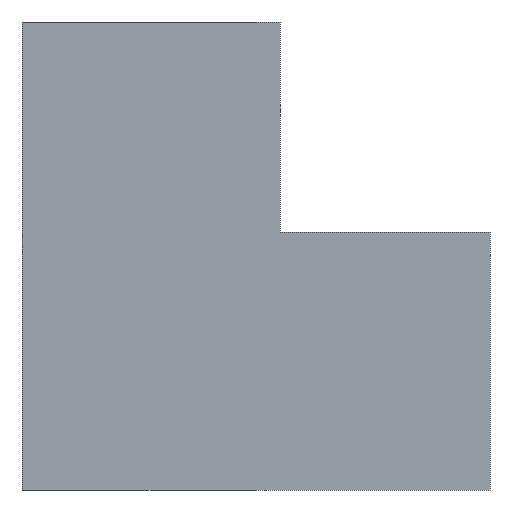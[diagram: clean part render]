
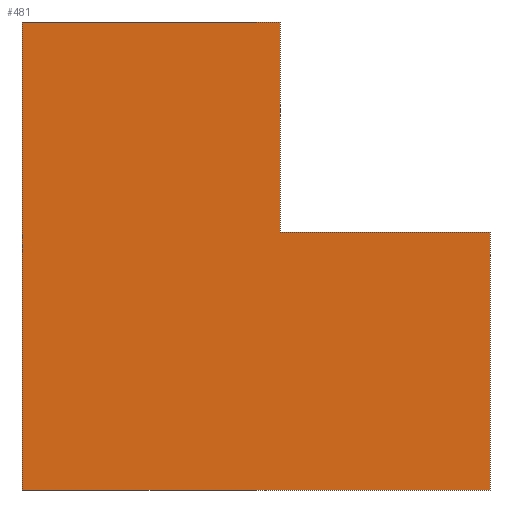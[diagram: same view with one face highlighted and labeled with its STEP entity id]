
A CAD part, front view. The second image highlights one B-rep face of the part: STEP entity #481.
In plain terms, the highlighted planar face has unit normal (0, -1, 0).
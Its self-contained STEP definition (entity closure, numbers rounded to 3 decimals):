
#24 = VERTEX_POINT('',#25);
#25 = CARTESIAN_POINT('',(0.,-43.,0.));
#32 = PLANE('',#33);
#33 = AXIS2_PLACEMENT_3D('',#34,#35,#36);
#34 = CARTESIAN_POINT('',(0.,0.,0.));
#35 = DIRECTION('',(-1.,0.,0.));
#36 = DIRECTION('',(0.,0.,1.));
#44 = PLANE('',#45);
#45 = AXIS2_PLACEMENT_3D('',#46,#47,#48);
#46 = CARTESIAN_POINT('',(0.,0.,0.));
#47 = DIRECTION('',(0.,0.,1.));
#48 = DIRECTION('',(1.,0.,0.));
#56 = EDGE_CURVE('',#24,#57,#59,.T.);
#57 = VERTEX_POINT('',#58);
#58 = CARTESIAN_POINT('',(0.,-43.,78.));
#59 = SURFACE_CURVE('',#60,(#64,#71),.PCURVE_S1.);
#60 = LINE('',#61,#62);
#61 = CARTESIAN_POINT('',(0.,-43.,0.));
#62 = VECTOR('',#63,1.);
#63 = DIRECTION('',(0.,0.,1.));
#64 = PCURVE('',#32,#65);
#65 = DEFINITIONAL_REPRESENTATION('',(#66),#70);
#66 = LINE('',#67,#68);
#67 = CARTESIAN_POINT('',(0.,-43.));
#68 = VECTOR('',#69,1.);
#69 = DIRECTION('',(1.,0.));
#70 = ( GEOMETRIC_REPRESENTATION_CONTEXT(2) 
PARAMETRIC_REPRESENTATION_CONTEXT() REPRESENTATION_CONTEXT('2D SPACE',''
  ) );
#71 = PCURVE('',#72,#77);
#72 = PLANE('',#73);
#73 = AXIS2_PLACEMENT_3D('',#74,#75,#76);
#74 = CARTESIAN_POINT('',(35.074,-43.,35.074));
#75 = DIRECTION('',(0.,1.,0.));
#76 = DIRECTION('',(0.,0.,1.));
#77 = DEFINITIONAL_REPRESENTATION('',(#78),#82);
#78 = LINE('',#79,#80);
#79 = CARTESIAN_POINT('',(-35.074,-35.074));
#80 = VECTOR('',#81,1.);
#81 = DIRECTION('',(1.,0.));
#82 = ( GEOMETRIC_REPRESENTATION_CONTEXT(2) 
PARAMETRIC_REPRESENTATION_CONTEXT() REPRESENTATION_CONTEXT('2D SPACE',''
  ) );
#100 = PLANE('',#101);
#101 = AXIS2_PLACEMENT_3D('',#102,#103,#104);
#102 = CARTESIAN_POINT('',(43.,0.,78.));
#103 = DIRECTION('',(0.,0.,-1.));
#104 = DIRECTION('',(-1.,0.,0.));
#142 = EDGE_CURVE('',#24,#143,#145,.T.);
#143 = VERTEX_POINT('',#144);
#144 = CARTESIAN_POINT('',(78.,-43.,0.));
#145 = SURFACE_CURVE('',#146,(#150,#157),.PCURVE_S1.);
#146 = LINE('',#147,#148);
#147 = CARTESIAN_POINT('',(0.,-43.,0.));
#148 = VECTOR('',#149,1.);
#149 = DIRECTION('',(1.,0.,0.));
#150 = PCURVE('',#44,#151);
#151 = DEFINITIONAL_REPRESENTATION('',(#152),#156);
#152 = LINE('',#153,#154);
#153 = CARTESIAN_POINT('',(0.,-43.));
#154 = VECTOR('',#155,1.);
#155 = DIRECTION('',(1.,0.));
#156 = ( GEOMETRIC_REPRESENTATION_CONTEXT(2) 
PARAMETRIC_REPRESENTATION_CONTEXT() REPRESENTATION_CONTEXT('2D SPACE',''
  ) );
#157 = PCURVE('',#72,#158);
#158 = DEFINITIONAL_REPRESENTATION('',(#159),#163);
#159 = LINE('',#160,#161);
#160 = CARTESIAN_POINT('',(-35.074,-35.074));
#161 = VECTOR('',#162,1.);
#162 = DIRECTION('',(0.,1.));
#163 = ( GEOMETRIC_REPRESENTATION_CONTEXT(2) 
PARAMETRIC_REPRESENTATION_CONTEXT() REPRESENTATION_CONTEXT('2D SPACE',''
  ) );
#181 = PLANE('',#182);
#182 = AXIS2_PLACEMENT_3D('',#183,#184,#185);
#183 = CARTESIAN_POINT('',(78.,0.,0.));
#184 = DIRECTION('',(-1.,0.,0.));
#185 = DIRECTION('',(0.,0.,1.));
#220 = VERTEX_POINT('',#221);
#221 = CARTESIAN_POINT('',(43.,-43.,78.));
#235 = PLANE('',#236);
#236 = AXIS2_PLACEMENT_3D('',#237,#238,#239);
#237 = CARTESIAN_POINT('',(43.,0.,43.));
#238 = DIRECTION('',(-1.,0.,0.));
#239 = DIRECTION('',(0.,0.,1.));
#247 = EDGE_CURVE('',#220,#57,#248,.T.);
#248 = SURFACE_CURVE('',#249,(#253,#260),.PCURVE_S1.);
#249 = LINE('',#250,#251);
#250 = CARTESIAN_POINT('',(43.,-43.,78.));
#251 = VECTOR('',#252,1.);
#252 = DIRECTION('',(-1.,0.,0.));
#253 = PCURVE('',#100,#254);
#254 = DEFINITIONAL_REPRESENTATION('',(#255),#259);
#255 = LINE('',#256,#257);
#256 = CARTESIAN_POINT('',(0.,-43.));
#257 = VECTOR('',#258,1.);
#258 = DIRECTION('',(1.,0.));
#259 = ( GEOMETRIC_REPRESENTATION_CONTEXT(2) 
PARAMETRIC_REPRESENTATION_CONTEXT() REPRESENTATION_CONTEXT('2D SPACE',''
  ) );
#260 = PCURVE('',#72,#261);
#261 = DEFINITIONAL_REPRESENTATION('',(#262),#266);
#262 = LINE('',#263,#264);
#263 = CARTESIAN_POINT('',(42.926,7.926));
#264 = VECTOR('',#265,1.);
#265 = DIRECTION('',(0.,-1.));
#266 = ( GEOMETRIC_REPRESENTATION_CONTEXT(2) 
PARAMETRIC_REPRESENTATION_CONTEXT() REPRESENTATION_CONTEXT('2D SPACE',''
  ) );
#448 = PLANE('',#449);
#449 = AXIS2_PLACEMENT_3D('',#450,#451,#452);
#450 = CARTESIAN_POINT('',(78.,0.,43.));
#451 = DIRECTION('',(0.,0.,-1.));
#452 = DIRECTION('',(-1.,0.,0.));
#481 = ADVANCED_FACE('',(#482),#72,.F.);
#482 = FACE_BOUND('',#483,.F.);
#483 = EDGE_LOOP('',(#484,#485,#486,#509,#532,#553));
#484 = ORIENTED_EDGE('',*,*,#56,.T.);
#485 = ORIENTED_EDGE('',*,*,#247,.F.);
#486 = ORIENTED_EDGE('',*,*,#487,.F.);
#487 = EDGE_CURVE('',#488,#220,#490,.T.);
#488 = VERTEX_POINT('',#489);
#489 = CARTESIAN_POINT('',(43.,-43.,43.));
#490 = SURFACE_CURVE('',#491,(#495,#502),.PCURVE_S1.);
#491 = LINE('',#492,#493);
#492 = CARTESIAN_POINT('',(43.,-43.,43.));
#493 = VECTOR('',#494,1.);
#494 = DIRECTION('',(0.,0.,1.));
#495 = PCURVE('',#72,#496);
#496 = DEFINITIONAL_REPRESENTATION('',(#497),#501);
#497 = LINE('',#498,#499);
#498 = CARTESIAN_POINT('',(7.926,7.926));
#499 = VECTOR('',#500,1.);
#500 = DIRECTION('',(1.,0.));
#501 = ( GEOMETRIC_REPRESENTATION_CONTEXT(2) 
PARAMETRIC_REPRESENTATION_CONTEXT() REPRESENTATION_CONTEXT('2D SPACE',''
  ) );
#502 = PCURVE('',#235,#503);
#503 = DEFINITIONAL_REPRESENTATION('',(#504),#508);
#504 = LINE('',#505,#506);
#505 = CARTESIAN_POINT('',(0.,-43.));
#506 = VECTOR('',#507,1.);
#507 = DIRECTION('',(1.,0.));
#508 = ( GEOMETRIC_REPRESENTATION_CONTEXT(2) 
PARAMETRIC_REPRESENTATION_CONTEXT() REPRESENTATION_CONTEXT('2D SPACE',''
  ) );
#509 = ORIENTED_EDGE('',*,*,#510,.F.);
#510 = EDGE_CURVE('',#511,#488,#513,.T.);
#511 = VERTEX_POINT('',#512);
#512 = CARTESIAN_POINT('',(78.,-43.,43.));
#513 = SURFACE_CURVE('',#514,(#518,#525),.PCURVE_S1.);
#514 = LINE('',#515,#516);
#515 = CARTESIAN_POINT('',(78.,-43.,43.));
#516 = VECTOR('',#517,1.);
#517 = DIRECTION('',(-1.,0.,0.));
#518 = PCURVE('',#72,#519);
#519 = DEFINITIONAL_REPRESENTATION('',(#520),#524);
#520 = LINE('',#521,#522);
#521 = CARTESIAN_POINT('',(7.926,42.926));
#522 = VECTOR('',#523,1.);
#523 = DIRECTION('',(0.,-1.));
#524 = ( GEOMETRIC_REPRESENTATION_CONTEXT(2) 
PARAMETRIC_REPRESENTATION_CONTEXT() REPRESENTATION_CONTEXT('2D SPACE',''
  ) );
#525 = PCURVE('',#448,#526);
#526 = DEFINITIONAL_REPRESENTATION('',(#527),#531);
#527 = LINE('',#528,#529);
#528 = CARTESIAN_POINT('',(0.,-43.));
#529 = VECTOR('',#530,1.);
#530 = DIRECTION('',(1.,0.));
#531 = ( GEOMETRIC_REPRESENTATION_CONTEXT(2) 
PARAMETRIC_REPRESENTATION_CONTEXT() REPRESENTATION_CONTEXT('2D SPACE',''
  ) );
#532 = ORIENTED_EDGE('',*,*,#533,.F.);
#533 = EDGE_CURVE('',#143,#511,#534,.T.);
#534 = SURFACE_CURVE('',#535,(#539,#546),.PCURVE_S1.);
#535 = LINE('',#536,#537);
#536 = CARTESIAN_POINT('',(78.,-43.,0.));
#537 = VECTOR('',#538,1.);
#538 = DIRECTION('',(0.,0.,1.));
#539 = PCURVE('',#72,#540);
#540 = DEFINITIONAL_REPRESENTATION('',(#541),#545);
#541 = LINE('',#542,#543);
#542 = CARTESIAN_POINT('',(-35.074,42.926));
#543 = VECTOR('',#544,1.);
#544 = DIRECTION('',(1.,0.));
#545 = ( GEOMETRIC_REPRESENTATION_CONTEXT(2) 
PARAMETRIC_REPRESENTATION_CONTEXT() REPRESENTATION_CONTEXT('2D SPACE',''
  ) );
#546 = PCURVE('',#181,#547);
#547 = DEFINITIONAL_REPRESENTATION('',(#548),#552);
#548 = LINE('',#549,#550);
#549 = CARTESIAN_POINT('',(0.,-43.));
#550 = VECTOR('',#551,1.);
#551 = DIRECTION('',(1.,0.));
#552 = ( GEOMETRIC_REPRESENTATION_CONTEXT(2) 
PARAMETRIC_REPRESENTATION_CONTEXT() REPRESENTATION_CONTEXT('2D SPACE',''
  ) );
#553 = ORIENTED_EDGE('',*,*,#142,.F.);
